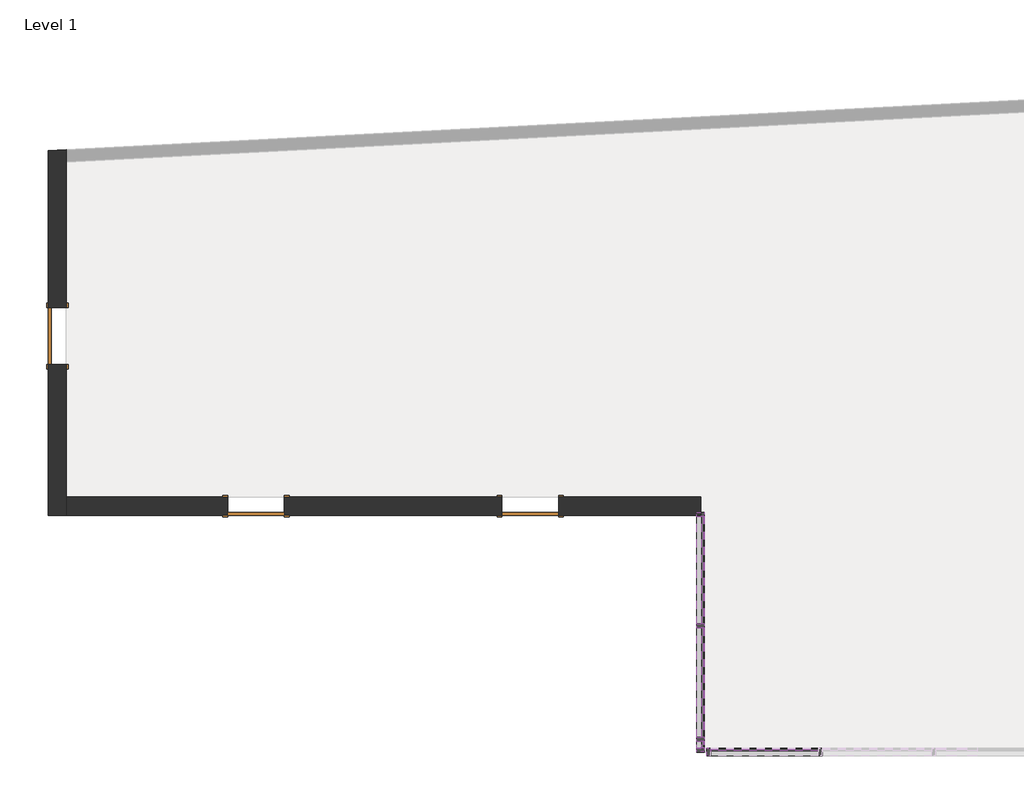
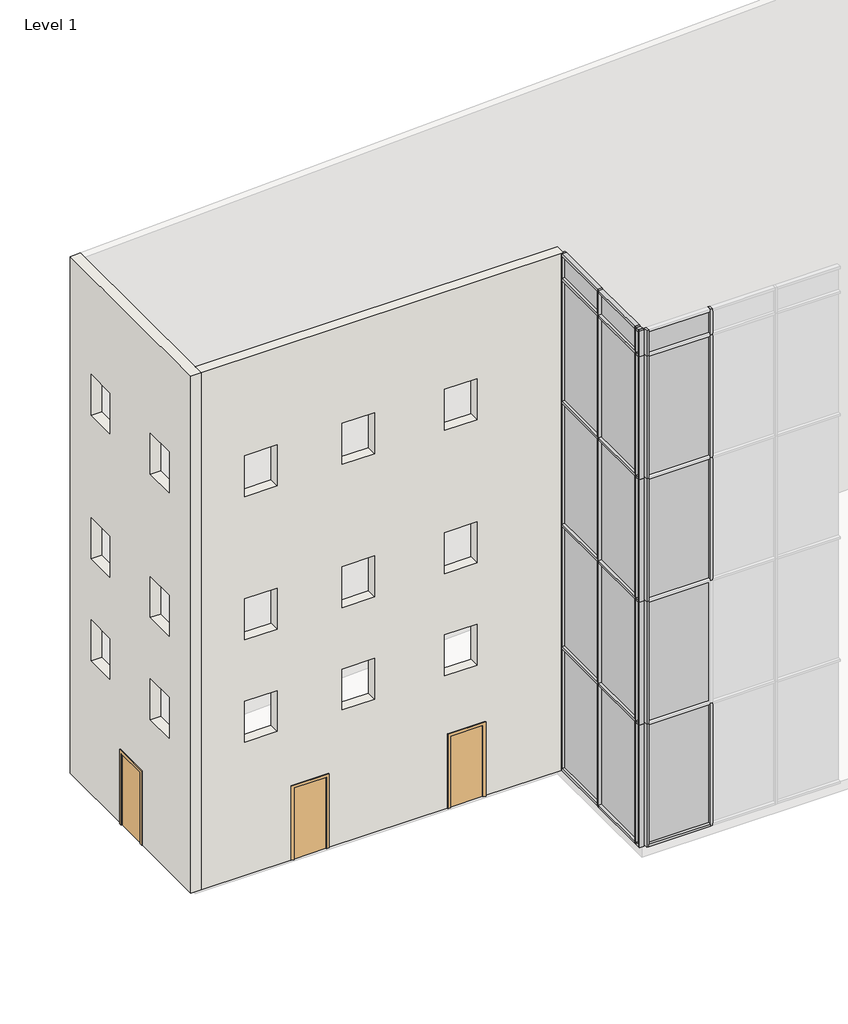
# One storey, part 1 of 3: 48 members, 20 plates, 3 doors, 2 walls.
"""IFC4 building model written with IfcOpenShell, lengths in millimetres."""

import ifcopenshell
import ifcopenshell.guid

model = None  # the IFC model being written
_history = None  # IfcOwnerHistory: only IFC2X3 demands one
_inside = {}  # id of a spatial element -> (the spatial element, [elements in it])
_under = {}  # id of a project, library or spatial element -> (it, [spatial elements below it])
_declared = {}  # id of a project -> (the project, [libraries it declares])
_typed = {}  # id of a type object -> (the type object, [elements of that type])
_made_of = {}  # id of a material, layer set ... -> (it, [elements and type objects made of it])


def new_model(schema):
    """Start an empty IFC model of exactly this schema.

    Asked for "IFC4X3", IfcOpenShell would pick the latest addendum, in which some entities
    have other attributes; the version numbers below select the first issue.
    IFC2X3 requires an IfcOwnerHistory on every rooted entity: one is made here for all.
    """
    global model, _history
    if schema == "IFC4X3":
        model = ifcopenshell.file(schema_version=(4, 3, 0, 0))
    else:
        model = ifcopenshell.file(schema=schema)
    _inside.clear()
    _under.clear()
    _declared.clear()
    _typed.clear()
    _made_of.clear()
    _history = None
    if model.schema == "IFC2X3":
        org = make("IfcOrganization", Name="unknown")
        user = make(
            "IfcPersonAndOrganization",
            ThePerson=make("IfcPerson", FamilyName="unknown"),
            TheOrganization=org,
        )
        app = make(
            "IfcApplication",
            ApplicationDeveloper=org,
            Version="unknown",
            ApplicationFullName="unknown",
            ApplicationIdentifier="unknown",
        )
        _history = make(
            "IfcOwnerHistory",
            OwningUser=user,
            OwningApplication=app,
            ChangeAction="ADDED",
            CreationDate=0,
        )
    return model


def make(cls, **values):
    """One entity of the class cls with the attributes given. An attribute that is None is left unset."""
    return model.create_entity(
        cls, **{name: value for name, value in values.items() if value is not None}
    )


def rooted(cls, **values):
    """An entity with a GlobalId (a new one), such as an element, a storey or a relation."""
    return make(cls, GlobalId=ifcopenshell.guid.new(), OwnerHistory=_history, **values)


def si_unit(unit_type, name, prefix=None):
    """IfcSIUnit, for example si_unit("LENGTHUNIT", "METRE", prefix="MILLI")."""
    return make("IfcSIUnit", UnitType=unit_type, Prefix=prefix, Name=name)


def assignment(units):
    """IfcUnitAssignment: the units of a project."""
    return None if units is None else make("IfcUnitAssignment", Units=units)


def point(xyz):
    """IfcCartesianPoint."""
    return None if xyz is None else make("IfcCartesianPoint", Coordinates=xyz)


def direction(xyz):
    """IfcDirection."""
    return None if xyz is None else make("IfcDirection", DirectionRatios=xyz)


def frame(location, z_axis=None, x_axis=None):
    """IfcAxis2Placement3D, a coordinate frame: its origin and axes. An axis left out is left unset."""
    return make(
        "IfcAxis2Placement3D",
        Location=point(location),
        Axis=direction(z_axis),
        RefDirection=direction(x_axis),
    )


def origin():
    """The frame at (0, 0, 0) with its axes left unset."""
    return frame((0.0, 0.0, 0.0))


def origin_with_axes():
    """The frame at (0, 0, 0) with the z axis (0, 0, 1) and the x axis (1, 0, 0) written out."""
    return frame((0.0, 0.0, 0.0), z_axis=(0.0, 0.0, 1.0), x_axis=(1.0, 0.0, 0.0))


def place(relative_to, where):
    """IfcLocalPlacement: puts the frame where relative to a parent placement (None: the world)."""
    return make(
        "IfcLocalPlacement", PlacementRelTo=relative_to, RelativePlacement=where
    )


def context(
    kind, dimensions, precision=None, world=None, true_north=None, identifier=None
):
    """IfcGeometricRepresentationContext, for example the 3D "Model" context."""
    return make(
        "IfcGeometricRepresentationContext",
        ContextIdentifier=identifier,
        ContextType=kind,
        CoordinateSpaceDimension=dimensions,
        Precision=precision,
        WorldCoordinateSystem=world,
        TrueNorth=true_north,
    )


def project(units=None, contexts=None):
    """IfcProject with its units and contexts."""
    return rooted(
        "IfcProject",
        Name="project",
        RepresentationContexts=contexts,
        UnitsInContext=assignment(units),
    )


def spatial(cls, under=None, at=None, **own):
    """A site, building, storey or space (cls), placed at a placement, below another one or the project."""
    s = rooted(cls, ObjectPlacement=at, **own)
    if under is not None:
        _under.setdefault(under.id(), (under, []))[1].append(s)
    return s


def polyline(points):
    """IfcPolyline through the points."""
    return make("IfcPolyline", Points=[point(p) for p in points])


def outline(outer, holes=None, kind="AREA"):
    """IfcArbitraryClosedProfileDef: a profile drawn as a closed curve; with holes, ...WithVoids."""
    if holes is None:
        return make("IfcArbitraryClosedProfileDef", ProfileType=kind, OuterCurve=outer)
    return make(
        "IfcArbitraryProfileDefWithVoids",
        ProfileType=kind,
        OuterCurve=outer,
        InnerCurves=holes,
    )


def extrude(swept, where, along, depth):
    """IfcExtrudedAreaSolid: the profile swept, set in the frame where, extruded along a direction by depth."""
    return make(
        "IfcExtrudedAreaSolid",
        SweptArea=swept,
        Position=where,
        ExtrudedDirection=direction(along),
        Depth=depth,
    )


def faces_of(points, faces, orient=None, outer=None):
    """IfcFace entities. A face is a list of loops; a loop is a list of indices into points, from 0.

    orient and outer hold one flag for each loop. By default every Orientation is true, the
    first loop of a face is its IfcFaceOuterBound and the others are IfcFaceBound.
    """
    made = []
    for i, loops in enumerate(faces):
        bounds = []
        for j, loop in enumerate(loops):
            is_outer = j == 0 if outer is None else outer[i][j]
            bounds.append(
                make(
                    "IfcFaceOuterBound" if is_outer else "IfcFaceBound",
                    Bound=make("IfcPolyLoop", Polygon=[points[k] for k in loop]),
                    Orientation=True if orient is None else orient[i][j],
                )
            )
        made.append(make("IfcFace", Bounds=bounds))
    return made


def faceted_brep(points, faces, orient=None, outer=None, voids=None):
    """IfcFacetedBrep: a solid bounded by flat faces; with voids (closed shells), ...WithVoids."""
    shared = [point(p) for p in points]
    hull = make("IfcClosedShell", CfsFaces=faces_of(shared, faces, orient, outer))
    if voids is None:
        return make("IfcFacetedBrep", Outer=hull)
    return make(
        "IfcFacetedBrepWithVoids",
        Outer=hull,
        Voids=[
            make(cls, CfsFaces=faces_of(shared, fs, o, b)) for cls, fs, o, b in voids
        ],
    )


def shape(context_of_items, identifier, shape_type, items):
    """IfcShapeRepresentation: the items that make up one representation, for example the "Body"."""
    return make(
        "IfcShapeRepresentation",
        ContextOfItems=context_of_items,
        RepresentationIdentifier=identifier,
        RepresentationType=shape_type,
        Items=items,
    )


def source(mapping_origin, context_of_items, identifier, shape_type, items):
    """IfcRepresentationMap: a shape defined once, which mapped items show again and again."""
    return make(
        "IfcRepresentationMap",
        MappingOrigin=mapping_origin,
        MappedRepresentation=shape(context_of_items, identifier, shape_type, items),
    )


def transform(
    local_origin,
    x_axis=None,
    y_axis=None,
    z_axis=None,
    scale=None,
    scale2=None,
    scale3=None,
    uniform=True,
):
    """IfcCartesianTransformationOperator3D, or its non-uniform kind. x_axis, y_axis, z_axis: its Axis1, 2, 3."""
    if uniform:
        return make(
            "IfcCartesianTransformationOperator3D",
            Axis1=direction(x_axis),
            Axis2=direction(y_axis),
            LocalOrigin=point(local_origin),
            Scale=scale,
            Axis3=direction(z_axis),
        )
    return make(
        "IfcCartesianTransformationOperator3DnonUniform",
        Axis1=direction(x_axis),
        Axis2=direction(y_axis),
        LocalOrigin=point(local_origin),
        Scale=scale,
        Axis3=direction(z_axis),
        Scale2=scale2,
        Scale3=scale3,
    )


def mapped(mapping_source, mapping_target):
    """IfcMappedItem: shows the shape of a source again, moved by a transform."""
    return make(
        "IfcMappedItem", MappingSource=mapping_source, MappingTarget=mapping_target
    )


def made_of(thing, what):
    """Note that an element or type object is made of a material, layer set ...; save() writes the relation."""
    if what is not None:
        _made_of.setdefault(what.id(), (what, []))[1].append(thing)
    return thing


def element(
    cls,
    number,
    at=None,
    inside=None,
    cuts=None,
    type_object=None,
    material=None,
    context=None,
    identifier="Body",
    shape_type=None,
    held_by="IfcProductDefinitionShape",
    body=None,
    shapes=None,
    **own,
):
    """One element of the class cls, such as IfcWall. Its Tag is "e" and its number.

    at: its placement. inside: the storey or other place that contains it. cuts: it is an
    opening in that element (IfcRelVoidsElement). A single representation is given by context,
    identifier, shape_type and body (its items); several are given by shapes. held_by: the class
    of the entity that holds the representations. save() writes the other relations.
    """
    e = rooted(cls, Tag="e%d" % number, ObjectPlacement=at, **own)
    if body is not None:
        shapes = [shape(context, identifier, shape_type, body)]
    if shapes is not None:
        e.Representation = make(held_by, Representations=shapes)
    if inside is not None:
        _inside.setdefault(inside.id(), (inside, []))[1].append(e)
    if cuts is not None:
        rooted(
            "IfcRelVoidsElement", RelatingBuildingElement=cuts, RelatedOpeningElement=e
        )
    if type_object is not None:
        _typed.setdefault(type_object.id(), (type_object, []))[1].append(e)
    return made_of(e, material)


def aggregate(whole, parts):
    """IfcRelAggregates: a whole, such as a stair, and the parts it consists of."""
    return rooted("IfcRelAggregates", RelatingObject=whole, RelatedObjects=parts)


def save(model, path):
    """Write the relations noted so far, then the file.

    IfcRelAggregates (storeys below a building ...), IfcRelContainedInSpatialStructure (elements
    in a storey), IfcRelDefinesByType, IfcRelAssociatesMaterial and IfcRelDeclares: one each for
    every whole, place, type object, material and project.
    """
    for whole, parts in _under.values():
        aggregate(whole, parts)
    for where, things in _inside.values():
        rooted(
            "IfcRelContainedInSpatialStructure",
            RelatedElements=things,
            RelatingStructure=where,
        )
    for kind, things in _typed.values():
        rooted("IfcRelDefinesByType", RelatedObjects=things, RelatingType=kind)
    for what, things in _made_of.values():
        rooted("IfcRelAssociatesMaterial", RelatedObjects=things, RelatingMaterial=what)
    for by, libraries in _declared.values():
        rooted("IfcRelDeclares", RelatingContext=by, RelatedDefinitions=libraries)
    model.write(path)


def door_7b231ec9(model_context):
    return source(origin(), model_context, "Body", "SweptSolid", [
        extrude(outline(polyline([(2209.8, -533.4), (0.0, -533.4), (0.0, -457.2), (2133.6, -457.2), (2133.6, 457.2), (0.0, 457.2), (0.0, 533.4), (2209.8, 533.4), (2209.8, -533.4)])), frame((0.0, 147.6375, 0.0), z_axis=(0.0, 1.0, 0.0), x_axis=(0.0, 0.0, 1.0)), (0.0, 0.0, 1.0), 25.4),
        extrude(outline(polyline([(2209.8, 533.4), (2209.8, -533.4), (0.0, -533.4), (0.0, -457.2), (2133.6, -457.2), (2133.6, 457.2), (0.0, 457.2), (0.0, 533.4), (2209.8, 533.4)])), frame((0.0, -173.0375, 0.0), z_axis=(0.0, 1.0, 0.0), x_axis=(0.0, 0.0, 1.0)), (0.0, 0.0, 1.0), 25.4),
        extrude(outline(polyline([(457.2, 96.8375), (-457.2, 96.8375), (-457.2, 147.6375), (457.2, 147.6375), (457.2, 96.8375)])), origin_with_axes(), (0.0, 0.0, 1.0), 2133.6),
    ])


def member_810865a4(model_context):
    return source(origin(), model_context, "Body", "SweptSolid", [
        extrude(outline(polyline([(31.75, 63.5), (31.75, -63.5), (-31.75, -63.5), (-31.75, 63.5), (31.75, 63.5)])), frame((0.0, 0.0, -3657.6), z_axis=(0.0, 0.0, 1.0), x_axis=(1.0, 0.0, 0.0)), (0.0, 0.0, 1.0), 3657.6),
    ])


def member_61742b2b(model_context):
    return source(origin(), model_context, "Body", "SweptSolid", [
        extrude(outline(polyline([(31.75, 63.5), (31.75, -63.5), (-31.75, -63.5), (-31.75, 63.5), (31.75, 63.5)])), frame((0.0, 0.0, -762.0), z_axis=(0.0, 0.0, 1.0), x_axis=(1.0, 0.0, 0.0)), (0.0, 0.0, 1.0), 762.0),
    ])


def member_64ee9188(model_context):
    return source(origin(), model_context, "Body", "SweptSolid", [
        extrude(outline(polyline([(0.0, 63.5), (0.0, -63.5), (-63.5, -63.5), (-63.5, 63.5), (0.0, 63.5)])), frame((0.0, 0.0, -1733.55), z_axis=(0.0, 0.0, 1.0), x_axis=(1.0, 0.0, 0.0)), (0.0, 0.0, 1.0), 1733.55),
    ])


def member_6d5c3e5e(model_context):
    return source(origin(), model_context, "Body", "SweptSolid", [
        extrude(outline(polyline([(0.0, 63.5), (0.0, -63.5), (-63.5, -63.5), (-63.5, 63.5), (0.0, 63.5)])), frame((0.0, 0.0, -1765.3), z_axis=(0.0, 0.0, 1.0), x_axis=(1.0, 0.0, 0.0)), (0.0, 0.0, 1.0), 1765.3),
    ])


def member_9764dd38(model_context):
    return source(origin(), model_context, "Body", "SweptSolid", [
        extrude(outline(polyline([(31.75, 63.5), (31.75, -63.5), (-31.75, -63.5), (-31.75, 63.5), (31.75, 63.5)])), frame((0.0, 0.0, -1765.3), z_axis=(0.0, 0.0, 1.0), x_axis=(1.0, 0.0, 0.0)), (0.0, 0.0, 1.0), 1765.3),
    ])


def member_bca00a8a(model_context):
    return source(origin(), model_context, "Body", "SweptSolid", [
        extrude(outline(polyline([(31.75, 63.5), (31.75, -63.5), (-31.75, -63.5), (-31.75, 63.5), (31.75, 63.5)])), frame((0.0, 0.0, -1733.55), z_axis=(0.0, 0.0, 1.0), x_axis=(1.0, 0.0, 0.0)), (0.0, 0.0, 1.0), 1733.55),
    ])


def member_aa870034(model_context):
    return source(origin(), model_context, "Body", "SweptSolid", [
        extrude(outline(polyline([(0.0, 63.5), (0.0, -63.5), (-63.5, -63.5), (-63.5, 63.5), (0.0, 63.5)])), frame((0.0, 0.0, -762.0), z_axis=(0.0, 0.0, 1.0), x_axis=(1.0, 0.0, 0.0)), (0.0, 0.0, 1.0), 762.0),
    ])


def member_4d31274b(model_context):
    return source(origin(), model_context, "Body", "SweptSolid", [
        extrude(outline(polyline([(0.0, 63.5), (0.0, -63.5), (-63.5, -63.5), (-63.5, 63.5), (0.0, 63.5)])), frame((0.0, 0.0, -3657.6), z_axis=(0.0, 0.0, 1.0), x_axis=(1.0, 0.0, 0.0)), (0.0, 0.0, 1.0), 3657.6),
    ])


def member_3cf39611(model_context):
    return source(origin(), model_context, "Body", "SweptSolid", [
        extrude(outline(polyline([(0.0, 63.5), (0.0, -63.5), (-63.5, -63.5), (-63.5, 63.5), (0.0, 63.5)])), frame((0.0, 0.0, -107.95), z_axis=(0.0, 0.0, 1.0), x_axis=(1.0, 0.0, 0.0)), (0.0, 0.0, 1.0), 107.95),
    ])


def member_038a5c12(model_context):
    return source(origin(), model_context, "Body", "SweptSolid", [
        extrude(outline(polyline([(31.75, 63.5), (31.75, -63.5), (-31.75, -63.5), (-31.75, 63.5), (31.75, 63.5)])), frame((0.0, 0.0, -107.95), z_axis=(0.0, 0.0, 1.0), x_axis=(1.0, 0.0, 0.0)), (0.0, 0.0, 1.0), 107.95),
    ])


def system_panel_glazed_6d5b9853(model_context):
    return source(origin(), model_context, "Body", "SweptSolid", [
        extrude(outline(polyline([(866.775, 19.05), (-866.775, 19.05), (-866.775, 44.45), (866.775, 44.45), (866.775, 19.05)])), origin_with_axes(), (0.0, 0.0, 1.0), 3562.35),
    ])


def system_panel_glazed_7e716341(model_context):
    return source(origin(), model_context, "Body", "SweptSolid", [
        extrude(outline(polyline([(882.65, 19.05), (-882.65, 19.05), (-882.65, 44.45), (882.65, 44.45), (882.65, 19.05)])), origin_with_axes(), (0.0, 0.0, 1.0), 3562.35),
    ])


def system_panel_glazed_b7da6602(model_context):
    return source(origin(), model_context, "Body", "SweptSolid", [
        extrude(outline(polyline([(866.775, 19.05), (-866.775, 19.05), (-866.775, 44.45), (866.775, 44.45), (866.775, 19.05)])), origin_with_axes(), (0.0, 0.0, 1.0), 3594.1),
    ])


def system_panel_glazed_7e07fde3(model_context):
    return source(origin(), model_context, "Body", "SweptSolid", [
        extrude(outline(polyline([(882.65, 19.05), (-882.65, 19.05), (-882.65, 44.45), (882.65, 44.45), (882.65, 19.05)])), origin_with_axes(), (0.0, 0.0, 1.0), 3594.1),
    ])


def system_panel_glazed_a732a05d(model_context):
    return source(origin(), model_context, "Body", "SweptSolid", [
        extrude(outline(polyline([(866.775, 19.05), (-866.775, 19.05), (-866.775, 44.45), (866.775, 44.45), (866.775, 19.05)])), origin_with_axes(), (0.0, 0.0, 1.0), 666.75),
    ])


def system_panel_glazed_a6232784(model_context):
    return source(origin(), model_context, "Body", "SweptSolid", [
        extrude(outline(polyline([(882.65, 19.05), (-882.65, 19.05), (-882.65, 44.45), (882.65, 44.45), (882.65, 19.05)])), origin_with_axes(), (0.0, 0.0, 1.0), 666.75),
    ])


def system_panel_glazed_c4f410a7(model_context):
    return source(origin(), model_context, "Body", "SweptSolid", [
        extrude(outline(polyline([(53.975, 19.05), (-53.975, 19.05), (-53.975, 44.45), (53.975, 44.45), (53.975, 19.05)])), origin_with_axes(), (0.0, 0.0, 1.0), 3562.35),
    ])


def system_panel_glazed_712b49f4(model_context):
    return source(origin(), model_context, "Body", "SweptSolid", [
        extrude(outline(polyline([(53.975, 19.05), (-53.975, 19.05), (-53.975, 44.45), (53.975, 44.45), (53.975, 19.05)])), origin_with_axes(), (0.0, 0.0, 1.0), 3594.1),
    ])


def system_panel_glazed_2b33f9cb(model_context):
    return source(origin(), model_context, "Body", "SweptSolid", [
        extrude(outline(polyline([(53.975, 19.05), (-53.975, 19.05), (-53.975, 44.45), (53.975, 44.45), (53.975, 19.05)])), origin_with_axes(), (0.0, 0.0, 1.0), 666.75),
    ])


model = new_model("IFC4")

# Units and contexts
model_context = context("Model", 3, world=origin())
ifc_project = project(units=[si_unit("LENGTHUNIT", "METRE", prefix="MILLI")], contexts=[model_context])

# Site, building, storey
site = spatial("IfcSite", under=ifc_project)
building = spatial("IfcBuilding", under=site)
storey = spatial("IfcBuildingStorey", under=building, Name="Level 1", Elevation=0.0)

# Doors
placement = place(None, origin())
door_shape = door_7b231ec9(model_context)
element("IfcDoor", 1, ObjectType="Single-Flush : 36\" x 84\"", at=placement, inside=storey, context=model_context, shape_type="MappedRepresentation", body=[
    mapped(door_shape, transform((-8360.1811041, 8648.7138106, 0.0), x_axis=(-1.0, 0.0, 0.0), y_axis=(0.0, -1.0, 0.0), z_axis=(0.0, 0.0, 1.0))),
])
element("IfcDoor", 2, ObjectType="Single-Flush : 36\" x 84\"", at=placement, inside=storey, context=model_context, shape_type="MappedRepresentation", body=[
    mapped(door_shape, transform((-3940.5811041, 8648.7138106, 0.0), x_axis=(-1.0, 0.0, 0.0), y_axis=(0.0, -1.0, 0.0), z_axis=(0.0, 0.0, 1.0))),
])
element("IfcDoor", 3, ObjectType="Single-Flush : 36\" x 84\"", at=placement, inside=storey, context=model_context, shape_type="MappedRepresentation", body=[
    mapped(door_shape, transform((-11560.5811041, 11391.9138106, 0.0), x_axis=(0.0, 1.0, 0.0), y_axis=(-1.0, 0.0, 0.0), z_axis=(0.0, 0.0, 1.0))),
])

# Members
member_shape = member_810865a4(model_context)
element("IfcMember", 4, ObjectType="Rectangular Mullion : 2.5\" x 5\" rectangular", at=placement, inside=storey, context=model_context, shape_type="MappedRepresentation", body=[
    mapped(member_shape, transform((733.0188959, 4686.3138106, 0.0), x_axis=(1.0, 0.0, 0.0), y_axis=(0.0, -1.0, 0.0), z_axis=(0.0, 0.0, -1.0))),
])
element("IfcMember", 5, ObjectType="Rectangular Mullion : 2.5\" x 5\" rectangular", at=placement, inside=storey, context=model_context, shape_type="MappedRepresentation", body=[
    mapped(member_shape, transform((-1197.3811041, 4889.5138106, 0.0), x_axis=(0.0, -1.0, 0.0), y_axis=(-1.0, 0.0, 0.0), z_axis=(0.0, 0.0, -1.0))),
])
element("IfcMember", 6, ObjectType="Rectangular Mullion : 2.5\" x 5\" rectangular", at=placement, inside=storey, context=model_context, shape_type="MappedRepresentation", body=[
    mapped(member_shape, transform((-1197.3811041, 6718.3138106, 0.0), x_axis=(0.0, -1.0, 0.0), y_axis=(-1.0, 0.0, 0.0), z_axis=(0.0, 0.0, -1.0))),
])
member_2_shape = member_61742b2b(model_context)
element("IfcMember", 7, ObjectType="Rectangular Mullion : 2.5\" x 5\" rectangular", at=placement, inside=storey, context=model_context, shape_type="MappedRepresentation", body=[
    mapped(member_2_shape, transform((733.0188959, 4686.3138106, 14630.4), x_axis=(1.0, 0.0, 0.0), y_axis=(0.0, -1.0, 0.0), z_axis=(0.0, 0.0, -1.0))),
])
element("IfcMember", 8, ObjectType="Rectangular Mullion : 2.5\" x 5\" rectangular", at=placement, inside=storey, context=model_context, shape_type="MappedRepresentation", body=[
    mapped(member_2_shape, transform((-1197.3811041, 6718.3138106, 14630.4), x_axis=(0.0, -1.0, 0.0), y_axis=(-1.0, 0.0, 0.0), z_axis=(0.0, 0.0, -1.0))),
])
element("IfcMember", 9, ObjectType="Rectangular Mullion : 2.5\" x 5\" rectangular", at=placement, inside=storey, context=model_context, shape_type="MappedRepresentation", body=[
    mapped(member_2_shape, transform((-1197.3811041, 4889.5138106, 14630.4), x_axis=(0.0, -1.0, 0.0), y_axis=(-1.0, 0.0, 0.0), z_axis=(0.0, 0.0, -1.0))),
])
element("IfcMember", 10, ObjectType="Rectangular Mullion : 2.5\" x 5\" rectangular", at=placement, inside=storey, context=model_context, shape_type="MappedRepresentation", body=[
    mapped(member_shape, transform((733.0188959, 4686.3138106, 10972.8), x_axis=(1.0, 0.0, 0.0), y_axis=(0.0, -1.0, 0.0), z_axis=(0.0, 0.0, -1.0))),
])
element("IfcMember", 11, ObjectType="Rectangular Mullion : 2.5\" x 5\" rectangular", at=placement, inside=storey, context=model_context, shape_type="MappedRepresentation", body=[
    mapped(member_shape, transform((733.0188959, 4686.3138106, 7315.2), x_axis=(1.0, 0.0, 0.0), y_axis=(0.0, -1.0, 0.0), z_axis=(0.0, 0.0, -1.0))),
])
element("IfcMember", 12, ObjectType="Rectangular Mullion : 2.5\" x 5\" rectangular", at=placement, inside=storey, context=model_context, shape_type="MappedRepresentation", body=[
    mapped(member_shape, transform((-1197.3811041, 6718.3138106, 7315.2), x_axis=(0.0, -1.0, 0.0), y_axis=(-1.0, 0.0, 0.0), z_axis=(0.0, 0.0, -1.0))),
])
element("IfcMember", 13, ObjectType="Rectangular Mullion : 2.5\" x 5\" rectangular", at=placement, inside=storey, context=model_context, shape_type="MappedRepresentation", body=[
    mapped(member_shape, transform((-1197.3811041, 6718.3138106, 3657.6), x_axis=(0.0, -1.0, 0.0), y_axis=(-1.0, 0.0, 0.0), z_axis=(0.0, 0.0, -1.0))),
])
element("IfcMember", 14, ObjectType="Rectangular Mullion : 2.5\" x 5\" rectangular", at=placement, inside=storey, context=model_context, shape_type="MappedRepresentation", body=[
    mapped(member_shape, transform((-1197.3811041, 6718.3138106, 10972.8), x_axis=(0.0, -1.0, 0.0), y_axis=(-1.0, 0.0, 0.0), z_axis=(0.0, 0.0, -1.0))),
])
element("IfcMember", 15, ObjectType="Rectangular Mullion : 2.5\" x 5\" rectangular", at=placement, inside=storey, context=model_context, shape_type="MappedRepresentation", body=[
    mapped(member_shape, transform((-1197.3811041, 4889.5138106, 3657.6), x_axis=(0.0, -1.0, 0.0), y_axis=(-1.0, 0.0, 0.0), z_axis=(0.0, 0.0, -1.0))),
])
element("IfcMember", 16, ObjectType="Rectangular Mullion : 2.5\" x 5\" rectangular", at=placement, inside=storey, context=model_context, shape_type="MappedRepresentation", body=[
    mapped(member_shape, transform((-1197.3811041, 4889.5138106, 10972.8), x_axis=(0.0, -1.0, 0.0), y_axis=(-1.0, 0.0, 0.0), z_axis=(0.0, 0.0, -1.0))),
])
element("IfcMember", 17, ObjectType="Rectangular Mullion : 2.5\" x 5\" rectangular", at=placement, inside=storey, context=model_context, shape_type="MappedRepresentation", body=[
    mapped(member_shape, transform((-1197.3811041, 4889.5138106, 7315.2), x_axis=(0.0, -1.0, 0.0), y_axis=(-1.0, 0.0, 0.0), z_axis=(0.0, 0.0, -1.0))),
])
member_3_shape = member_64ee9188(model_context)
element("IfcMember", 18, ObjectType="Rectangular Mullion : 2.5\" x 5\" rectangular", at=placement, inside=storey, context=model_context, shape_type="MappedRepresentation", body=[
    mapped(member_3_shape, transform((-1032.2811041, 4686.3138106, 0.0), x_axis=(0.0, 0.0, -1.0), y_axis=(0.0, -1.0, 0.0), z_axis=(-1.0, 0.0, 0.0))),
])
element("IfcMember", 19, ObjectType="Rectangular Mullion : 2.5\" x 5\" rectangular", at=placement, inside=storey, context=model_context, shape_type="MappedRepresentation", body=[
    mapped(member_3_shape, transform((-1197.3811041, 8483.6138106, 0.0), x_axis=(0.0, 0.0, -1.0), y_axis=(-1.0, 0.0, 0.0), z_axis=(0.0, 1.0, 0.0))),
])
member_4_shape = member_6d5c3e5e(model_context)
element("IfcMember", 20, ObjectType="Rectangular Mullion : 2.5\" x 5\" rectangular", at=placement, inside=storey, context=model_context, shape_type="MappedRepresentation", body=[
    mapped(member_4_shape, transform((-1197.3811041, 4921.2638106, 15392.4), x_axis=(0.0, 0.0, 1.0), y_axis=(-1.0, 0.0, 0.0), z_axis=(0.0, -1.0, 0.0))),
])
element("IfcMember", 21, ObjectType="Rectangular Mullion : 2.5\" x 5\" rectangular", at=placement, inside=storey, context=model_context, shape_type="MappedRepresentation", body=[
    mapped(member_3_shape, transform((-1197.3811041, 6750.0638106, 15392.4), x_axis=(0.0, 0.0, 1.0), y_axis=(-1.0, 0.0, 0.0), z_axis=(0.0, -1.0, 0.0))),
])
element("IfcMember", 22, ObjectType="Rectangular Mullion : 2.5\" x 5\" rectangular", at=placement, inside=storey, context=model_context, shape_type="MappedRepresentation", body=[
    mapped(member_4_shape, transform((-1197.3811041, 6686.5638106, 0.0), x_axis=(0.0, 0.0, -1.0), y_axis=(-1.0, 0.0, 0.0), z_axis=(0.0, 1.0, 0.0))),
])
member_5_shape = member_9764dd38(model_context)
element("IfcMember", 23, ObjectType="Rectangular Mullion : 2.5\" x 5\" rectangular", at=placement, inside=storey, context=model_context, shape_type="MappedRepresentation", body=[
    mapped(member_5_shape, transform((-1197.3811041, 4921.2638106, 14630.4), x_axis=(0.0, 0.0, 1.0), y_axis=(-1.0, 0.0, 0.0), z_axis=(0.0, -1.0, 0.0))),
])
element("IfcMember", 24, ObjectType="Rectangular Mullion : 2.5\" x 5\" rectangular", at=placement, inside=storey, context=model_context, shape_type="MappedRepresentation", body=[
    mapped(member_5_shape, transform((-1197.3811041, 4921.2638106, 10972.8), x_axis=(0.0, 0.0, 1.0), y_axis=(-1.0, 0.0, 0.0), z_axis=(0.0, -1.0, 0.0))),
])
element("IfcMember", 25, ObjectType="Rectangular Mullion : 2.5\" x 5\" rectangular", at=placement, inside=storey, context=model_context, shape_type="MappedRepresentation", body=[
    mapped(member_5_shape, transform((-1197.3811041, 4921.2638106, 7315.2), x_axis=(0.0, 0.0, 1.0), y_axis=(-1.0, 0.0, 0.0), z_axis=(0.0, -1.0, 0.0))),
])
element("IfcMember", 26, ObjectType="Rectangular Mullion : 2.5\" x 5\" rectangular", at=placement, inside=storey, context=model_context, shape_type="MappedRepresentation", body=[
    mapped(member_5_shape, transform((-1197.3811041, 4921.2638106, 3657.6), x_axis=(0.0, 0.0, 1.0), y_axis=(-1.0, 0.0, 0.0), z_axis=(0.0, -1.0, 0.0))),
])
member_6_shape = member_bca00a8a(model_context)
element("IfcMember", 27, ObjectType="Rectangular Mullion : 2.5\" x 5\" rectangular", at=placement, inside=storey, context=model_context, shape_type="MappedRepresentation", body=[
    mapped(member_6_shape, transform((-1197.3811041, 6750.0638106, 14630.4), x_axis=(0.0, 0.0, 1.0), y_axis=(-1.0, 0.0, 0.0), z_axis=(0.0, -1.0, 0.0))),
])
element("IfcMember", 28, ObjectType="Rectangular Mullion : 2.5\" x 5\" rectangular", at=placement, inside=storey, context=model_context, shape_type="MappedRepresentation", body=[
    mapped(member_6_shape, transform((-1197.3811041, 6750.0638106, 10972.8), x_axis=(0.0, 0.0, 1.0), y_axis=(-1.0, 0.0, 0.0), z_axis=(0.0, -1.0, 0.0))),
])
element("IfcMember", 29, ObjectType="Rectangular Mullion : 2.5\" x 5\" rectangular", at=placement, inside=storey, context=model_context, shape_type="MappedRepresentation", body=[
    mapped(member_6_shape, transform((-1197.3811041, 6750.0638106, 7315.2), x_axis=(0.0, 0.0, 1.0), y_axis=(-1.0, 0.0, 0.0), z_axis=(0.0, -1.0, 0.0))),
])
element("IfcMember", 30, ObjectType="Rectangular Mullion : 2.5\" x 5\" rectangular", at=placement, inside=storey, context=model_context, shape_type="MappedRepresentation", body=[
    mapped(member_6_shape, transform((-1197.3811041, 6750.0638106, 3657.6), x_axis=(0.0, 0.0, 1.0), y_axis=(-1.0, 0.0, 0.0), z_axis=(0.0, -1.0, 0.0))),
])
member_7_shape = member_aa870034(model_context)
element("IfcMember", 31, ObjectType="Rectangular Mullion : 2.5\" x 5\" rectangular", at=placement, inside=storey, context=model_context, shape_type="MappedRepresentation", body=[
    mapped(member_7_shape, transform((-1095.7811041, 4686.3138106, 15392.4), x_axis=(-1.0, 0.0, 0.0), y_axis=(0.0, -1.0, 0.0), z_axis=(0.0, 0.0, 1.0))),
])
element("IfcMember", 32, ObjectType="Rectangular Mullion : 2.5\" x 5\" rectangular", at=placement, inside=storey, context=model_context, shape_type="MappedRepresentation", body=[
    mapped(member_7_shape, transform((-1197.3811041, 8547.1138106, 15392.4), x_axis=(0.0, 1.0, 0.0), y_axis=(-1.0, 0.0, 0.0), z_axis=(0.0, 0.0, 1.0))),
])
member_8_shape = member_4d31274b(model_context)
element("IfcMember", 33, ObjectType="Rectangular Mullion : 2.5\" x 5\" rectangular", at=placement, inside=storey, context=model_context, shape_type="MappedRepresentation", body=[
    mapped(member_8_shape, transform((-1197.3811041, 4686.3138106, 0.0), x_axis=(0.0, -1.0, 0.0), y_axis=(-1.0, 0.0, 0.0), z_axis=(0.0, 0.0, -1.0))),
])
element("IfcMember", 34, ObjectType="Rectangular Mullion : 2.5\" x 5\" rectangular", at=placement, inside=storey, context=model_context, shape_type="MappedRepresentation", body=[
    mapped(member_8_shape, transform((-1095.7811041, 4686.3138106, 14630.4), x_axis=(-1.0, 0.0, 0.0), y_axis=(0.0, -1.0, 0.0), z_axis=(0.0, 0.0, 1.0))),
])
element("IfcMember", 35, ObjectType="Rectangular Mullion : 2.5\" x 5\" rectangular", at=placement, inside=storey, context=model_context, shape_type="MappedRepresentation", body=[
    mapped(member_8_shape, transform((-1095.7811041, 4686.3138106, 10972.8), x_axis=(-1.0, 0.0, 0.0), y_axis=(0.0, -1.0, 0.0), z_axis=(0.0, 0.0, 1.0))),
])
element("IfcMember", 36, ObjectType="Rectangular Mullion : 2.5\" x 5\" rectangular", at=placement, inside=storey, context=model_context, shape_type="MappedRepresentation", body=[
    mapped(member_8_shape, transform((-1095.7811041, 4686.3138106, 7315.2), x_axis=(-1.0, 0.0, 0.0), y_axis=(0.0, -1.0, 0.0), z_axis=(0.0, 0.0, 1.0))),
])
element("IfcMember", 37, ObjectType="Rectangular Mullion : 2.5\" x 5\" rectangular", at=placement, inside=storey, context=model_context, shape_type="MappedRepresentation", body=[
    mapped(member_8_shape, transform((-1197.3811041, 8547.1138106, 7315.2), x_axis=(0.0, 1.0, 0.0), y_axis=(-1.0, 0.0, 0.0), z_axis=(0.0, 0.0, 1.0))),
])
element("IfcMember", 38, ObjectType="Rectangular Mullion : 2.5\" x 5\" rectangular", at=placement, inside=storey, context=model_context, shape_type="MappedRepresentation", body=[
    mapped(member_8_shape, transform((-1197.3811041, 8547.1138106, 14630.4), x_axis=(0.0, 1.0, 0.0), y_axis=(-1.0, 0.0, 0.0), z_axis=(0.0, 0.0, 1.0))),
])
element("IfcMember", 39, ObjectType="Rectangular Mullion : 2.5\" x 5\" rectangular", at=placement, inside=storey, context=model_context, shape_type="MappedRepresentation", body=[
    mapped(member_8_shape, transform((-1197.3811041, 8547.1138106, 10972.8), x_axis=(0.0, 1.0, 0.0), y_axis=(-1.0, 0.0, 0.0), z_axis=(0.0, 0.0, 1.0))),
])
element("IfcMember", 40, ObjectType="Rectangular Mullion : 2.5\" x 5\" rectangular", at=placement, inside=storey, context=model_context, shape_type="MappedRepresentation", body=[
    mapped(member_8_shape, transform((-1095.7811041, 4686.3138106, 3657.6), x_axis=(-1.0, 0.0, 0.0), y_axis=(0.0, -1.0, 0.0), z_axis=(0.0, 0.0, 1.0))),
])
element("IfcMember", 41, ObjectType="Rectangular Mullion : 2.5\" x 5\" rectangular", at=placement, inside=storey, context=model_context, shape_type="MappedRepresentation", body=[
    mapped(member_8_shape, transform((-1197.3811041, 8547.1138106, 3657.6), x_axis=(0.0, 1.0, 0.0), y_axis=(-1.0, 0.0, 0.0), z_axis=(0.0, 0.0, 1.0))),
])
element("IfcMember", 42, ObjectType="Rectangular Mullion : 2.5\" x 5\" rectangular", at=placement, inside=storey, context=model_context, shape_type="MappedRepresentation", body=[
    mapped(member_7_shape, transform((-1197.3811041, 4686.3138106, 14630.4), x_axis=(0.0, -1.0, 0.0), y_axis=(-1.0, 0.0, 0.0), z_axis=(0.0, 0.0, -1.0))),
])
element("IfcMember", 43, ObjectType="Rectangular Mullion : 2.5\" x 5\" rectangular", at=placement, inside=storey, context=model_context, shape_type="MappedRepresentation", body=[
    mapped(member_8_shape, transform((-1197.3811041, 4686.3138106, 10972.8), x_axis=(0.0, -1.0, 0.0), y_axis=(-1.0, 0.0, 0.0), z_axis=(0.0, 0.0, -1.0))),
])
element("IfcMember", 44, ObjectType="Rectangular Mullion : 2.5\" x 5\" rectangular", at=placement, inside=storey, context=model_context, shape_type="MappedRepresentation", body=[
    mapped(member_8_shape, transform((-1197.3811041, 4686.3138106, 7315.2), x_axis=(0.0, -1.0, 0.0), y_axis=(-1.0, 0.0, 0.0), z_axis=(0.0, 0.0, -1.0))),
])
element("IfcMember", 45, ObjectType="Rectangular Mullion : 2.5\" x 5\" rectangular", at=placement, inside=storey, context=model_context, shape_type="MappedRepresentation", body=[
    mapped(member_8_shape, transform((-1197.3811041, 4686.3138106, 3657.6), x_axis=(0.0, -1.0, 0.0), y_axis=(-1.0, 0.0, 0.0), z_axis=(0.0, 0.0, -1.0))),
])
member_9_shape = member_3cf39611(model_context)
element("IfcMember", 46, ObjectType="Rectangular Mullion : 2.5\" x 5\" rectangular", at=placement, inside=storey, context=model_context, shape_type="MappedRepresentation", body=[
    mapped(member_9_shape, transform((-1197.3811041, 4857.7638106, 0.0), x_axis=(0.0, 0.0, -1.0), y_axis=(-1.0, 0.0, 0.0), z_axis=(0.0, 1.0, 0.0))),
])
member_10_shape = member_038a5c12(model_context)
element("IfcMember", 47, ObjectType="Rectangular Mullion : 2.5\" x 5\" rectangular", at=placement, inside=storey, context=model_context, shape_type="MappedRepresentation", body=[
    mapped(member_10_shape, transform((-1197.3811041, 4749.8138106, 14630.4), x_axis=(0.0, 0.0, 1.0), y_axis=(-1.0, 0.0, 0.0), z_axis=(0.0, -1.0, 0.0))),
])
element("IfcMember", 48, ObjectType="Rectangular Mullion : 2.5\" x 5\" rectangular", at=placement, inside=storey, context=model_context, shape_type="MappedRepresentation", body=[
    mapped(member_10_shape, transform((-1197.3811041, 4749.8138106, 10972.8), x_axis=(0.0, 0.0, 1.0), y_axis=(-1.0, 0.0, 0.0), z_axis=(0.0, -1.0, 0.0))),
])
element("IfcMember", 49, ObjectType="Rectangular Mullion : 2.5\" x 5\" rectangular", at=placement, inside=storey, context=model_context, shape_type="MappedRepresentation", body=[
    mapped(member_10_shape, transform((-1197.3811041, 4749.8138106, 7315.2), x_axis=(0.0, 0.0, 1.0), y_axis=(-1.0, 0.0, 0.0), z_axis=(0.0, -1.0, 0.0))),
])
element("IfcMember", 50, ObjectType="Rectangular Mullion : 2.5\" x 5\" rectangular", at=placement, inside=storey, context=model_context, shape_type="MappedRepresentation", body=[
    mapped(member_10_shape, transform((-1197.3811041, 4749.8138106, 3657.6), x_axis=(0.0, 0.0, 1.0), y_axis=(-1.0, 0.0, 0.0), z_axis=(0.0, -1.0, 0.0))),
])
element("IfcMember", 51, ObjectType="Rectangular Mullion : 2.5\" x 5\" rectangular", at=placement, inside=storey, context=model_context, shape_type="MappedRepresentation", body=[
    mapped(member_9_shape, transform((-1197.3811041, 4749.8138106, 15392.4), x_axis=(0.0, 0.0, 1.0), y_axis=(-1.0, 0.0, 0.0), z_axis=(0.0, -1.0, 0.0))),
])

# Plates
system_panel_glazed_shape = system_panel_glazed_6d5b9853(model_context)
element("IfcPlate", 52, ObjectType="System Panel : Glazed", at=placement, inside=storey, context=model_context, shape_type="MappedRepresentation", body=[
    mapped(system_panel_glazed_shape, transform((-165.5061041, 4686.3138106, 63.5), x_axis=(1.0, 0.0, 0.0), y_axis=(0.0, 1.0, 0.0), z_axis=(0.0, 0.0, 1.0))),
])
element("IfcPlate", 53, ObjectType="System Panel : Glazed", at=placement, inside=storey, context=model_context, shape_type="MappedRepresentation", body=[
    mapped(system_panel_glazed_shape, transform((-1197.3811041, 7616.8388106, 63.5), x_axis=(0.0, -1.0, 0.0), y_axis=(1.0, 0.0, 0.0), z_axis=(0.0, 0.0, 1.0))),
])
system_panel_glazed_2_shape = system_panel_glazed_7e716341(model_context)
element("IfcPlate", 54, ObjectType="System Panel : Glazed", at=placement, inside=storey, context=model_context, shape_type="MappedRepresentation", body=[
    mapped(system_panel_glazed_2_shape, transform((-1197.3811041, 5803.9138106, 63.5), x_axis=(0.0, -1.0, 0.0), y_axis=(1.0, 0.0, 0.0), z_axis=(0.0, 0.0, 1.0))),
])
system_panel_glazed_3_shape = system_panel_glazed_b7da6602(model_context)
element("IfcPlate", 55, ObjectType="System Panel : Glazed", at=placement, inside=storey, context=model_context, shape_type="MappedRepresentation", body=[
    mapped(system_panel_glazed_3_shape, transform((-165.5061041, 4686.3138106, 3689.35), x_axis=(1.0, 0.0, 0.0), y_axis=(0.0, 1.0, 0.0), z_axis=(0.0, 0.0, 1.0))),
])
element("IfcPlate", 56, ObjectType="System Panel : Glazed", at=placement, inside=storey, context=model_context, shape_type="MappedRepresentation", body=[
    mapped(system_panel_glazed_3_shape, transform((-165.5061041, 4686.3138106, 7346.95), x_axis=(1.0, 0.0, 0.0), y_axis=(0.0, 1.0, 0.0), z_axis=(0.0, 0.0, 1.0))),
])
element("IfcPlate", 57, ObjectType="System Panel : Glazed", at=placement, inside=storey, context=model_context, shape_type="MappedRepresentation", body=[
    mapped(system_panel_glazed_3_shape, transform((-165.5061041, 4686.3138106, 11004.55), x_axis=(1.0, 0.0, 0.0), y_axis=(0.0, 1.0, 0.0), z_axis=(0.0, 0.0, 1.0))),
])
element("IfcPlate", 58, ObjectType="System Panel : Glazed", at=placement, inside=storey, context=model_context, shape_type="MappedRepresentation", body=[
    mapped(system_panel_glazed_3_shape, transform((-1197.3811041, 7616.8388106, 3689.35), x_axis=(0.0, -1.0, 0.0), y_axis=(1.0, 0.0, 0.0), z_axis=(0.0, 0.0, 1.0))),
])
element("IfcPlate", 59, ObjectType="System Panel : Glazed", at=placement, inside=storey, context=model_context, shape_type="MappedRepresentation", body=[
    mapped(system_panel_glazed_3_shape, transform((-1197.3811041, 7616.8388106, 7346.95), x_axis=(0.0, -1.0, 0.0), y_axis=(1.0, 0.0, 0.0), z_axis=(0.0, 0.0, 1.0))),
])
element("IfcPlate", 60, ObjectType="System Panel : Glazed", at=placement, inside=storey, context=model_context, shape_type="MappedRepresentation", body=[
    mapped(system_panel_glazed_3_shape, transform((-1197.3811041, 7616.8388106, 11004.55), x_axis=(0.0, -1.0, 0.0), y_axis=(1.0, 0.0, 0.0), z_axis=(0.0, 0.0, 1.0))),
])
system_panel_glazed_4_shape = system_panel_glazed_7e07fde3(model_context)
element("IfcPlate", 61, ObjectType="System Panel : Glazed", at=placement, inside=storey, context=model_context, shape_type="MappedRepresentation", body=[
    mapped(system_panel_glazed_4_shape, transform((-1197.3811041, 5803.9138106, 3689.35), x_axis=(0.0, -1.0, 0.0), y_axis=(1.0, 0.0, 0.0), z_axis=(0.0, 0.0, 1.0))),
])
element("IfcPlate", 62, ObjectType="System Panel : Glazed", at=placement, inside=storey, context=model_context, shape_type="MappedRepresentation", body=[
    mapped(system_panel_glazed_4_shape, transform((-1197.3811041, 5803.9138106, 7346.95), x_axis=(0.0, -1.0, 0.0), y_axis=(1.0, 0.0, 0.0), z_axis=(0.0, 0.0, 1.0))),
])
element("IfcPlate", 63, ObjectType="System Panel : Glazed", at=placement, inside=storey, context=model_context, shape_type="MappedRepresentation", body=[
    mapped(system_panel_glazed_4_shape, transform((-1197.3811041, 5803.9138106, 11004.55), x_axis=(0.0, -1.0, 0.0), y_axis=(1.0, 0.0, 0.0), z_axis=(0.0, 0.0, 1.0))),
])
system_panel_glazed_5_shape = system_panel_glazed_a732a05d(model_context)
element("IfcPlate", 64, ObjectType="System Panel : Glazed", at=placement, inside=storey, context=model_context, shape_type="MappedRepresentation", body=[
    mapped(system_panel_glazed_5_shape, transform((-165.5061041, 4686.3138106, 14662.15), x_axis=(1.0, 0.0, 0.0), y_axis=(0.0, 1.0, 0.0), z_axis=(0.0, 0.0, 1.0))),
])
element("IfcPlate", 65, ObjectType="System Panel : Glazed", at=placement, inside=storey, context=model_context, shape_type="MappedRepresentation", body=[
    mapped(system_panel_glazed_5_shape, transform((-1197.3811041, 7616.8388106, 14662.15), x_axis=(0.0, -1.0, 0.0), y_axis=(1.0, 0.0, 0.0), z_axis=(0.0, 0.0, 1.0))),
])
system_panel_glazed_6_shape = system_panel_glazed_a6232784(model_context)
element("IfcPlate", 66, ObjectType="System Panel : Glazed", at=placement, inside=storey, context=model_context, shape_type="MappedRepresentation", body=[
    mapped(system_panel_glazed_6_shape, transform((-1197.3811041, 5803.9138106, 14662.15), x_axis=(0.0, -1.0, 0.0), y_axis=(1.0, 0.0, 0.0), z_axis=(0.0, 0.0, 1.0))),
])
system_panel_glazed_7_shape = system_panel_glazed_c4f410a7(model_context)
element("IfcPlate", 67, ObjectType="System Panel : Glazed", at=placement, inside=storey, context=model_context, shape_type="MappedRepresentation", body=[
    mapped(system_panel_glazed_7_shape, transform((-1197.3811041, 4803.7888106, 63.5), x_axis=(0.0, -1.0, 0.0), y_axis=(1.0, 0.0, 0.0), z_axis=(0.0, 0.0, 1.0))),
])
system_panel_glazed_8_shape = system_panel_glazed_712b49f4(model_context)
element("IfcPlate", 68, ObjectType="System Panel : Glazed", at=placement, inside=storey, context=model_context, shape_type="MappedRepresentation", body=[
    mapped(system_panel_glazed_8_shape, transform((-1197.3811041, 4803.7888106, 3689.35), x_axis=(0.0, -1.0, 0.0), y_axis=(1.0, 0.0, 0.0), z_axis=(0.0, 0.0, 1.0))),
])
element("IfcPlate", 69, ObjectType="System Panel : Glazed", at=placement, inside=storey, context=model_context, shape_type="MappedRepresentation", body=[
    mapped(system_panel_glazed_8_shape, transform((-1197.3811041, 4803.7888106, 7346.95), x_axis=(0.0, -1.0, 0.0), y_axis=(1.0, 0.0, 0.0), z_axis=(0.0, 0.0, 1.0))),
])
element("IfcPlate", 70, ObjectType="System Panel : Glazed", at=placement, inside=storey, context=model_context, shape_type="MappedRepresentation", body=[
    mapped(system_panel_glazed_8_shape, transform((-1197.3811041, 4803.7888106, 11004.55), x_axis=(0.0, -1.0, 0.0), y_axis=(1.0, 0.0, 0.0), z_axis=(0.0, 0.0, 1.0))),
])
system_panel_glazed_9_shape = system_panel_glazed_2b33f9cb(model_context)
element("IfcPlate", 71, ObjectType="System Panel : Glazed", at=placement, inside=storey, context=model_context, shape_type="MappedRepresentation", body=[
    mapped(system_panel_glazed_9_shape, transform((-1197.3811041, 4803.7888106, 14662.15), x_axis=(0.0, -1.0, 0.0), y_axis=(1.0, 0.0, 0.0), z_axis=(0.0, 0.0, 1.0))),
])

# Walls
element("IfcWall", 72, ObjectType="Generic - 12\" Masonry", at=placement, inside=storey, context=model_context, shape_type="Brep", body=[
    faceted_brep([(-11708.2186041, 14381.5550404, 0.0), (-11708.2186041, 11849.1138106, 0.0), (-11708.2186041, 11849.1138106, 2133.6), (-11708.2186041, 10934.7138106, 2133.6), (-11708.2186041, 10934.7138106, 0.0), (-11708.2186041, 8501.0763106, 0.0), (-11708.2186041, 8501.0763106, 15392.4), (-11708.2186041, 14381.5550404, 15392.4), (-11708.2186041, 12458.7138106, 5181.6), (-11708.2186041, 12458.7138106, 3962.4), (-11708.2186041, 13373.1138106, 3962.4), (-11708.2186041, 13373.1138106, 5181.6), (-11708.2186041, 9563.1138106, 5181.6), (-11708.2186041, 9563.1138106, 3962.4), (-11708.2186041, 10477.5138106, 3962.4), (-11708.2186041, 10477.5138106, 5181.6), (-11708.2186041, 9563.1138106, 8229.6), (-11708.2186041, 9563.1138106, 7010.4), (-11708.2186041, 10477.5138106, 7010.4), (-11708.2186041, 10477.5138106, 8229.6), (-11708.2186041, 12458.7138106, 8229.6), (-11708.2186041, 12458.7138106, 7010.4), (-11708.2186041, 13373.1138106, 7010.4), (-11708.2186041, 13373.1138106, 8229.6), (-11708.2186041, 9563.1138106, 12496.8), (-11708.2186041, 9563.1138106, 11277.6), (-11708.2186041, 10477.5138106, 11277.6), (-11708.2186041, 10477.5138106, 12496.8), (-11708.2186041, 12458.7138106, 12496.8), (-11708.2186041, 12458.7138106, 11277.6), (-11708.2186041, 13373.1138106, 11277.6), (-11708.2186041, 13373.1138106, 12496.8), (-11412.9436041, 11849.1138106, 2133.6), (-11412.9436041, 11849.1138106, 0.0), (-11412.9436041, 14193.4725808, 0.0), (-11412.9436041, 14396.9485238, 0.0), (-11412.9436041, 14396.9485238, 15392.4), (-11412.9436041, 14193.4725808, 15392.4), (-11412.9436041, 8796.3513106, 15392.4), (-11412.9436041, 8501.0763106, 15392.4), (-11412.9436041, 8501.0763106, 0.0), (-11412.9436041, 8796.3513106, 0.0), (-11412.9436041, 10934.7138106, 0.0), (-11412.9436041, 10934.7138106, 2133.6), (-11412.9436041, 12458.7138106, 5181.6), (-11412.9436041, 13373.1138106, 5181.6), (-11412.9436041, 13373.1138106, 3962.4), (-11412.9436041, 12458.7138106, 3962.4), (-11412.9436041, 9563.1138106, 5181.6), (-11412.9436041, 10477.5138106, 5181.6), (-11412.9436041, 10477.5138106, 3962.4), (-11412.9436041, 9563.1138106, 3962.4), (-11412.9436041, 9563.1138106, 8229.6), (-11412.9436041, 10477.5138106, 8229.6), (-11412.9436041, 10477.5138106, 7010.4), (-11412.9436041, 9563.1138106, 7010.4), (-11412.9436041, 12458.7138106, 8229.6), (-11412.9436041, 13373.1138106, 8229.6), (-11412.9436041, 13373.1138106, 7010.4), (-11412.9436041, 12458.7138106, 7010.4), (-11412.9436041, 9563.1138106, 12496.8), (-11412.9436041, 10477.5138106, 12496.8), (-11412.9436041, 10477.5138106, 11277.6), (-11412.9436041, 9563.1138106, 11277.6), (-11412.9436041, 12458.7138106, 12496.8), (-11412.9436041, 13373.1138106, 12496.8), (-11412.9436041, 13373.1138106, 11277.6), (-11412.9436041, 12458.7138106, 11277.6)], [[[0, 1, 2, 3, 4, 5, 6, 7], [8, 9, 10, 11], [12, 13, 14, 15], [16, 17, 18, 19], [20, 21, 22, 23], [24, 25, 26, 27], [28, 29, 30, 31]], [[32, 33, 34, 35, 36, 37, 38, 39, 40, 41, 42, 43], [44, 45, 46, 47], [48, 49, 50, 51], [52, 53, 54, 55], [56, 57, 58, 59], [60, 61, 62, 63], [64, 65, 66, 67]], [[35, 34, 33, 1, 0]], [[42, 41, 40, 5, 4]], [[7, 6, 39, 38, 37, 36]], [[6, 5, 40, 39]], [[0, 7, 36, 35]], [[2, 1, 33, 32]], [[3, 2, 32, 43]], [[4, 3, 43, 42]], [[9, 8, 44, 47]], [[10, 9, 47, 46]], [[11, 10, 46, 45]], [[8, 11, 45, 44]], [[13, 12, 48, 51]], [[14, 13, 51, 50]], [[15, 14, 50, 49]], [[12, 15, 49, 48]], [[17, 16, 52, 55]], [[18, 17, 55, 54]], [[19, 18, 54, 53]], [[16, 19, 53, 52]], [[21, 20, 56, 59]], [[22, 21, 59, 58]], [[23, 22, 58, 57]], [[20, 23, 57, 56]], [[25, 24, 60, 63]], [[26, 25, 63, 62]], [[27, 26, 62, 61]], [[24, 27, 61, 60]], [[29, 28, 64, 67]], [[30, 29, 67, 66]], [[31, 30, 66, 65]], [[28, 31, 65, 64]]]),
])
element("IfcWall", 73, ObjectType="Generic - 12\" Masonry", at=placement, inside=storey, context=model_context, shape_type="SweptSolid", body=[
    extrude(outline(polyline([(0.0, -7902.9811041), (0.0, -4397.7811041), (2133.6, -4397.7811041), (2133.6, -3483.3811041), (0.0, -3483.3811041), (0.0, -1197.3811041), (15392.4, -1197.3811041), (15392.4, -11412.9436041), (0.0, -11412.9436041), (0.0, -8817.3811041), (2133.6, -8817.3811041), (2133.6, -7902.9811041), (0.0, -7902.9811041)]), holes=[polyline([(5181.6, -9274.5811041), (3962.4, -9274.5811041), (3962.4, -10188.9811041), (5181.6, -10188.9811041), (5181.6, -9274.5811041)]), polyline([(5181.6, -6531.3811041), (3962.4, -6531.3811041), (3962.4, -7445.7811041), (5181.6, -7445.7811041), (5181.6, -6531.3811041)]), polyline([(5181.6, -3635.7811041), (3962.4, -3635.7811041), (3962.4, -4550.1811041), (5181.6, -4550.1811041), (5181.6, -3635.7811041)]), polyline([(8229.6, -3635.7811041), (7010.4, -3635.7811041), (7010.4, -4550.1811041), (8229.6, -4550.1811041), (8229.6, -3635.7811041)]), polyline([(8229.6, -6531.3811041), (7010.4, -6531.3811041), (7010.4, -7445.7811041), (8229.6, -7445.7811041), (8229.6, -6531.3811041)]), polyline([(8229.6, -9274.5811041), (7010.4, -9274.5811041), (7010.4, -10188.9811041), (8229.6, -10188.9811041), (8229.6, -9274.5811041)]), polyline([(12496.8, -3635.7811041), (11277.6, -3635.7811041), (11277.6, -4550.1811041), (12496.8, -4550.1811041), (12496.8, -3635.7811041)]), polyline([(12496.8, -6531.3811041), (11277.6, -6531.3811041), (11277.6, -7445.7811041), (12496.8, -7445.7811041), (12496.8, -6531.3811041)]), polyline([(12496.8, -9274.5811041), (11277.6, -9274.5811041), (11277.6, -10188.9811041), (12496.8, -10188.9811041), (12496.8, -9274.5811041)])]), frame((0.0, 8501.0763106, 0.0), z_axis=(0.0, 1.0, 0.0), x_axis=(0.0, 0.0, 1.0)), (0.0, 0.0, 1.0), 295.275),
])

save(model, "model.ifc")
